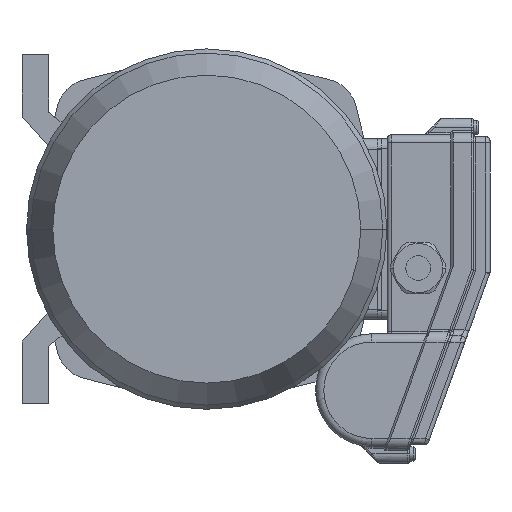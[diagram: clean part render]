
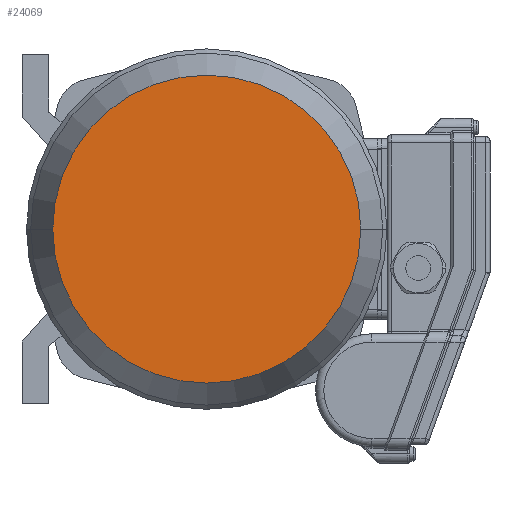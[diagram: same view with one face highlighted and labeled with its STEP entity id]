
A CAD part, front view. The second image highlights one B-rep face of the part: STEP entity #24069.
In plain terms, the highlighted planar face has unit normal (0, -1, 0) as drawn and (1, 0, 0) by its records, which use the part's own axes.
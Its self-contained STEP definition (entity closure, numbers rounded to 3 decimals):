
#17580=CARTESIAN_POINT('',(242.,0.,0.));
#17581=DIRECTION('',(-1.,0.,0.));
#17582=DIRECTION('',(0.,1.,0.));
#17583=AXIS2_PLACEMENT_3D('',#17580,#17581,#17582);
#17588=CARTESIAN_POINT('',(242.,0.,0.));
#17589=DIRECTION('',(1.,0.,0.));
#17590=DIRECTION('',(0.,1.,0.));
#17591=AXIS2_PLACEMENT_3D('',#17588,#17589,#17590);
#18282=CARTESIAN_POINT('',(242.,75.025,0.));
#18284=VERTEX_POINT('',#18282);
#18292=CARTESIAN_POINT('',(242.,-75.025,0.));
#18294=VERTEX_POINT('',#18292);
#24060=CARTESIAN_POINT('',(242.,0.,0.));
#24061=DIRECTION('',(1.,0.,0.));
#24062=DIRECTION('',(0.,-1.,0.));
#24063=AXIS2_PLACEMENT_3D('',#24060,#24061,#24062);
#24064=PLANE('',#24063);
#24065=ORIENTED_EDGE('',*,*,#24042,.T.);
#24066=ORIENTED_EDGE('',*,*,#24053,.F.);
#24067=EDGE_LOOP('',(#24065,#24066));
#24068=FACE_OUTER_BOUND('',#24067,.F.);
#17584=CIRCLE('',#17583,75.025);
#17592=CIRCLE('',#17591,75.025);
#24042=EDGE_CURVE('',#18284,#18294,#17584,.T.);
#24053=EDGE_CURVE('',#18284,#18294,#17592,.T.);
#24069=ADVANCED_FACE('',(#24068),#24064,.T.);
